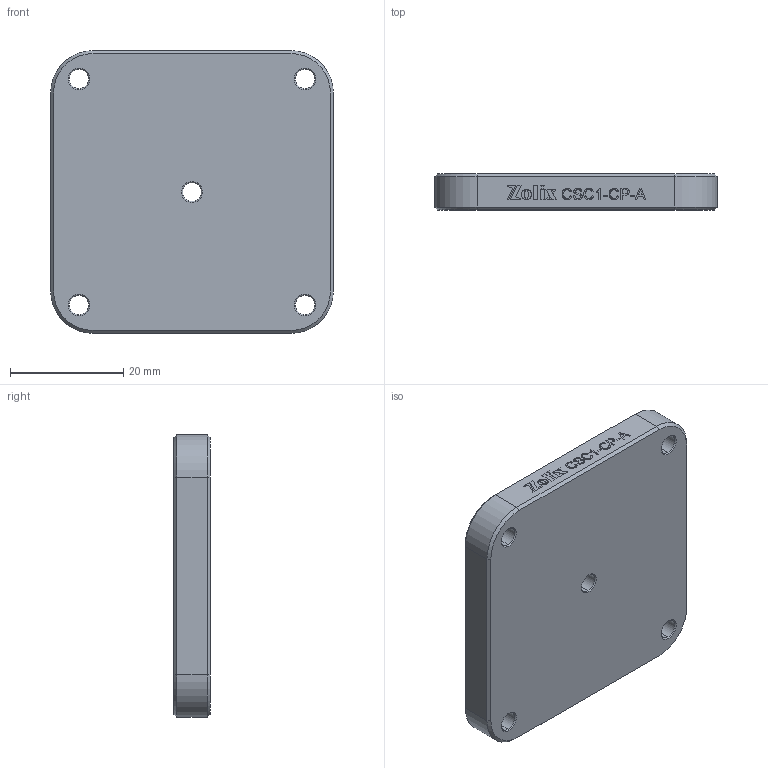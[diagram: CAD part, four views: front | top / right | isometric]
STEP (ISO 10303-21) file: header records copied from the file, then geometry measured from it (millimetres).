
FILE_DESCRIPTION (( 'STEP AP203' ), '1' );
FILE_NAME ('CSC1-CP-A.STEP', '2023-11-24T04:54:06', ( '' ), ( '' ), 'SwSTEP 2.0', 'SolidWorks 2021', '' );
FILE_SCHEMA (( 'CONFIG_CONTROL_DESIGN' ));
Length unit declared in the file: millimetre
Products named in the file (1): CSC1-CP-A
Bounding box: 50 x 6.4 x 50 mm (x, y, z)
Surface area: 6479.2 mm2 (no closed solid volume)
Topology: 0 solids, 5 shells, 146 faces, 712 edges, 560 vertices
Faces by surface type: plane 68, cylinder 30, cone 28, bspline 20
Entity records: 9295 total; most frequent: CARTESIAN_POINT 3871, ORIENTED_EDGE 992, DIRECTION 958, EDGE_CURVE 712, VERTEX_POINT 560, VECTOR 528, LINE 528, AXIS2_PLACEMENT_3D 215
